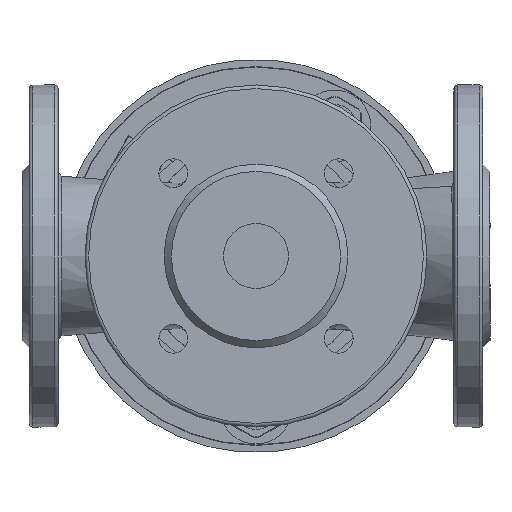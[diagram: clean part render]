
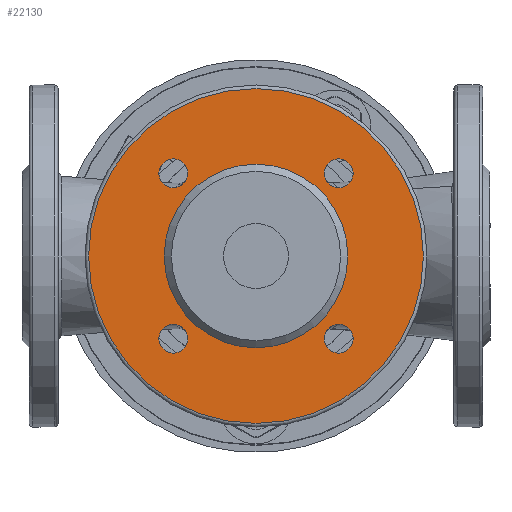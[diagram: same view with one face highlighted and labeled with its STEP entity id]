
A CAD part, front view. The second image highlights one B-rep face of the part: STEP entity #22130.
In plain terms, the highlighted planar face has unit normal (0, -1, 0).
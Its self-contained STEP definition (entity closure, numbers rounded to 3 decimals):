
#998=PLANE('',#23958);
#1211=FACE_BOUND('',#3880,.T.);
#1212=FACE_BOUND('',#3881,.T.);
#1213=FACE_BOUND('',#3882,.T.);
#1214=FACE_BOUND('',#3883,.T.);
#1215=FACE_BOUND('',#3884,.T.);
#2451=FACE_OUTER_BOUND('',#3879,.T.);
#3879=EDGE_LOOP('',(#20516));
#3880=EDGE_LOOP('',(#20517));
#3881=EDGE_LOOP('',(#20518));
#3882=EDGE_LOOP('',(#20519));
#3883=EDGE_LOOP('',(#20520));
#3884=EDGE_LOOP('',(#20521));
#8800=CIRCLE('',#23895,4.);
#8802=CIRCLE('',#23898,4.);
#8804=CIRCLE('',#23901,4.);
#8806=CIRCLE('',#23904,4.);
#8837=CIRCLE('',#23957,25.5);
#8838=CIRCLE('',#23959,46.5);
#10935=VERTEX_POINT('',#43657);
#10937=VERTEX_POINT('',#43662);
#10939=VERTEX_POINT('',#43667);
#10941=VERTEX_POINT('',#43672);
#10988=VERTEX_POINT('',#44703);
#10989=VERTEX_POINT('',#44706);
#14124=EDGE_CURVE('',#10935,#10935,#8800,.T.);
#14126=EDGE_CURVE('',#10937,#10937,#8802,.T.);
#14128=EDGE_CURVE('',#10939,#10939,#8804,.T.);
#14130=EDGE_CURVE('',#10941,#10941,#8806,.T.);
#14185=EDGE_CURVE('',#10988,#10988,#8837,.T.);
#14186=EDGE_CURVE('',#10989,#10989,#8838,.T.);
#20516=ORIENTED_EDGE('',*,*,#14186,.F.);
#20517=ORIENTED_EDGE('',*,*,#14124,.T.);
#20518=ORIENTED_EDGE('',*,*,#14126,.T.);
#20519=ORIENTED_EDGE('',*,*,#14128,.T.);
#20520=ORIENTED_EDGE('',*,*,#14130,.T.);
#20521=ORIENTED_EDGE('',*,*,#14185,.F.);
#22130=ADVANCED_FACE('',(#2451,#1211,#1212,#1213,#1214,#1215),#998,.T.);
#23895=AXIS2_PLACEMENT_3D('',#43658,#29244,#29245);
#23898=AXIS2_PLACEMENT_3D('',#43663,#29250,#29251);
#23901=AXIS2_PLACEMENT_3D('',#43668,#29256,#29257);
#23904=AXIS2_PLACEMENT_3D('',#43673,#29262,#29263);
#23957=AXIS2_PLACEMENT_3D('',#44704,#29369,#29370);
#23958=AXIS2_PLACEMENT_3D('',#44705,#29371,#29372);
#23959=AXIS2_PLACEMENT_3D('',#44707,#29373,#29374);
#29244=DIRECTION('center_axis',(0.,1.,0.));
#29245=DIRECTION('ref_axis',(-0.581,0.,0.814));
#29250=DIRECTION('center_axis',(0.,1.,0.));
#29251=DIRECTION('ref_axis',(-0.814,0.,-0.581));
#29256=DIRECTION('center_axis',(0.,1.,0.));
#29257=DIRECTION('ref_axis',(0.581,0.,-0.814));
#29262=DIRECTION('center_axis',(0.,1.,0.));
#29263=DIRECTION('ref_axis',(0.814,0.,0.581));
#29369=DIRECTION('center_axis',(0.,-1.,0.));
#29370=DIRECTION('ref_axis',(0.814,0.,-0.581));
#29371=DIRECTION('center_axis',(0.,-1.,0.));
#29372=DIRECTION('ref_axis',(0.,0.,-1.));
#29373=DIRECTION('center_axis',(0.,1.,0.));
#29374=DIRECTION('ref_axis',(0.,0.,
-1.));
#43657=CARTESIAN_POINT('',(966.316,906.287,836.981));
#43658=CARTESIAN_POINT('Origin',(966.316,906.287,832.981));
#43662=CARTESIAN_POINT('',(962.316,906.287,787.019));
#43663=CARTESIAN_POINT('Origin',(966.316,906.287,787.019));
#43667=CARTESIAN_POINT('',(1012.278,906.287,783.019));
#43668=CARTESIAN_POINT('Origin',(1012.278,906.287,787.019));
#43672=CARTESIAN_POINT('',(1016.278,906.287,832.981));
#43673=CARTESIAN_POINT('Origin',(1012.278,906.287,832.981));
#44703=CARTESIAN_POINT('',(1014.797,906.287,810.));
#44704=CARTESIAN_POINT('Origin',(989.297,906.287,810.));
#44705=CARTESIAN_POINT('Origin',(942.797,906.287,810.));
#44706=CARTESIAN_POINT('',(1035.797,906.287,810.));
#44707=CARTESIAN_POINT('Origin',(989.297,906.287,810.));
